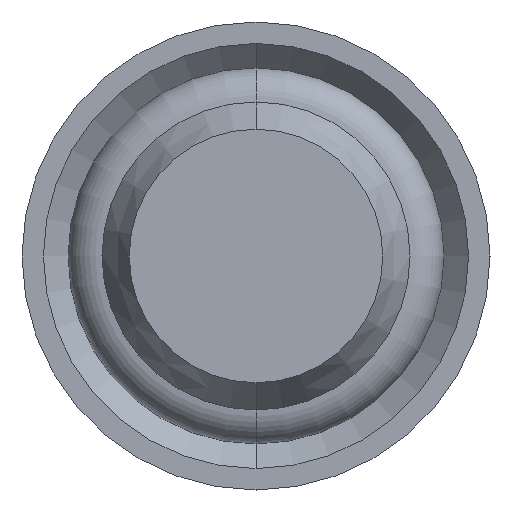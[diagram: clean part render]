
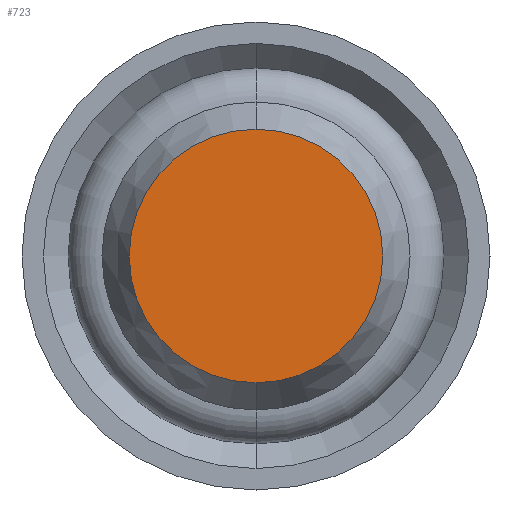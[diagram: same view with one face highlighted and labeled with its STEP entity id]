
A CAD part, front view. The second image highlights one B-rep face of the part: STEP entity #723.
In plain terms, the highlighted planar face has unit normal (0, -1, 0).
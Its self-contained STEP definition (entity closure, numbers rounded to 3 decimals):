
#42 = CARTESIAN_POINT ( 'NONE',  ( 0., 0., -3.25 ) ) ;
#150 = FACE_OUTER_BOUND ( 'NONE', #1425, .T. ) ;
#208 = DIRECTION ( 'NONE',  ( 0., -1., 0. ) ) ;
#216 = DIRECTION ( 'NONE',  ( 0., -1., 0. ) ) ;
#253 = CARTESIAN_POINT ( 'NONE',  ( 0., 0., 3.25 ) ) ;
#398 = CARTESIAN_POINT ( 'NONE',  ( 0., 0., 0. ) ) ;
#453 = ORIENTED_EDGE ( 'NONE', *, *, #1367, .T. ) ;
#529 = CIRCLE ( 'NONE', #678, 3.25 ) ;
#575 = CIRCLE ( 'NONE', #1556, 3.25 ) ;
#678 = AXIS2_PLACEMENT_3D ( 'NONE', #1197, #216, #1331 ) ;
#679 = DIRECTION ( 'NONE',  ( 0., 0., -1. ) ) ;
#723 = ADVANCED_FACE ( 'NONE', ( #150 ), #1414, .T. ) ;
#1018 = ORIENTED_EDGE ( 'NONE', *, *, #1749, .T. ) ;
#1197 = CARTESIAN_POINT ( 'NONE',  ( 0., 0., 0. ) ) ;
#1241 = VERTEX_POINT ( 'NONE', #253 ) ;
#1278 = VERTEX_POINT ( 'NONE', #42 ) ;
#1331 = DIRECTION ( 'NONE',  ( 0., 0., -1. ) ) ;
#1367 = EDGE_CURVE ( 'NONE', #1241, #1278, #529, .T. ) ;
#1379 = DIRECTION ( 'NONE',  ( 0., 0., -1. ) ) ;
#1395 = DIRECTION ( 'NONE',  ( 0., -1., 0. ) ) ;
#1402 = CARTESIAN_POINT ( 'NONE',  ( 0., 0., 0. ) ) ;
#1414 = PLANE ( 'NONE',  #1426 ) ;
#1425 = EDGE_LOOP ( 'NONE', ( #453, #1018 ) ) ;
#1426 = AXIS2_PLACEMENT_3D ( 'NONE', #1402, #1395, #1379 ) ;
#1556 = AXIS2_PLACEMENT_3D ( 'NONE', #398, #208, #679 ) ;
#1749 = EDGE_CURVE ( 'NONE', #1278, #1241, #575, .T. ) ;
